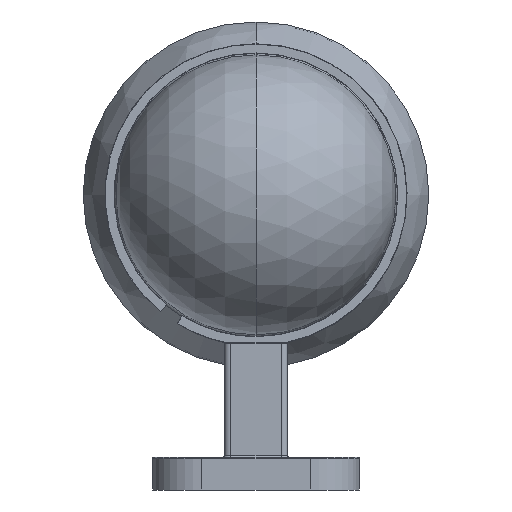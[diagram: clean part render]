
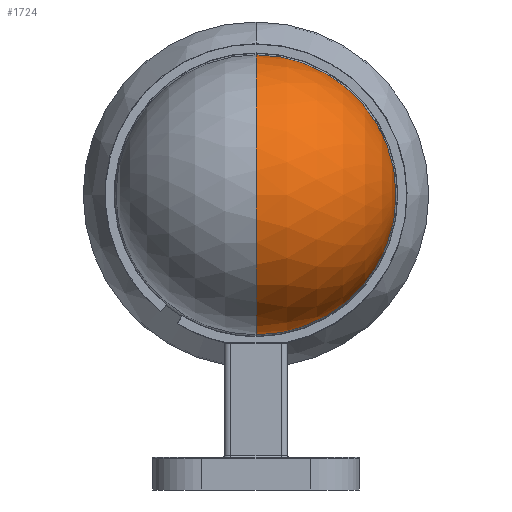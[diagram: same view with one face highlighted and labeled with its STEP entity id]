
A CAD part, front view. The second image highlights one B-rep face of the part: STEP entity #1724.
In plain terms, the highlighted spherical face has radius 44 mm.
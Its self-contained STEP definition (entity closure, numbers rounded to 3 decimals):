
#89 = DIRECTION ( 'NONE',  ( 0., 0., 1. ) ) ;
#337 = SPHERICAL_SURFACE ( 'NONE', #1973, 44. ) ;
#406 = AXIS2_PLACEMENT_3D ( 'NONE', #2164, #1543, #3673 ) ;
#412 = CARTESIAN_POINT ( 'NONE',  ( 0., -42.875, 48.791 ) ) ;
#593 = ORIENTED_EDGE ( 'NONE', *, *, #2713, .F. ) ;
#730 = CARTESIAN_POINT ( 'NONE',  ( 0., -86.875, 92.791 ) ) ;
#839 = DIRECTION ( 'NONE',  ( 0., 0., 1. ) ) ;
#899 = CIRCLE ( 'NONE', #2334, 44. ) ;
#1256 = DIRECTION ( 'NONE',  ( 0., 0., -1. ) ) ;
#1378 = CIRCLE ( 'NONE', #406, 44. ) ;
#1402 = FACE_OUTER_BOUND ( 'NONE', #1787, .T. ) ;
#1483 = ORIENTED_EDGE ( 'NONE', *, *, #3499, .T. ) ;
#1543 = DIRECTION ( 'NONE',  ( 0., 1., 0. ) ) ;
#1589 = CARTESIAN_POINT ( 'NONE',  ( 0., -42.875, 92.791 ) ) ;
#1724 = ADVANCED_FACE ( 'NONE', ( #1402 ), #337, .T. ) ;
#1787 = EDGE_LOOP ( 'NONE', ( #3757, #1483, #593 ) ) ;
#1873 = DIRECTION ( 'NONE',  ( -1., 0., 0. ) ) ;
#1913 = CARTESIAN_POINT ( 'NONE',  ( 0., -42.875, 92.791 ) ) ;
#1973 = AXIS2_PLACEMENT_3D ( 'NONE', #3865, #2641, #839 ) ;
#2139 = AXIS2_PLACEMENT_3D ( 'NONE', #1589, #1873, #89 ) ;
#2164 = CARTESIAN_POINT ( 'NONE',  ( 0., -42.875, 92.791 ) ) ;
#2192 = DIRECTION ( 'NONE',  ( 1., 0., 0. ) ) ;
#2334 = AXIS2_PLACEMENT_3D ( 'NONE', #1913, #2192, #1256 ) ;
#2432 = VERTEX_POINT ( 'NONE', #3800 ) ;
#2641 = DIRECTION ( 'NONE',  ( 1., 0., 0. ) ) ;
#2688 = CIRCLE ( 'NONE', #2139, 44. ) ;
#2713 = EDGE_CURVE ( 'NONE', #2432, #3441, #1378, .T. ) ;
#2814 = VERTEX_POINT ( 'NONE', #730 ) ;
#3441 = VERTEX_POINT ( 'NONE', #412 ) ;
#3493 = EDGE_CURVE ( 'NONE', #2814, #2432, #2688, .T. ) ;
#3499 = EDGE_CURVE ( 'NONE', #2814, #3441, #899, .T. ) ;
#3673 = DIRECTION ( 'NONE',  ( 0., 0., 1. ) ) ;
#3757 = ORIENTED_EDGE ( 'NONE', *, *, #3493, .F. ) ;
#3800 = CARTESIAN_POINT ( 'NONE',  ( 0., -42.875, 136.791 ) ) ;
#3865 = CARTESIAN_POINT ( 'NONE',  ( 0., -42.875, 92.791 ) ) ;
